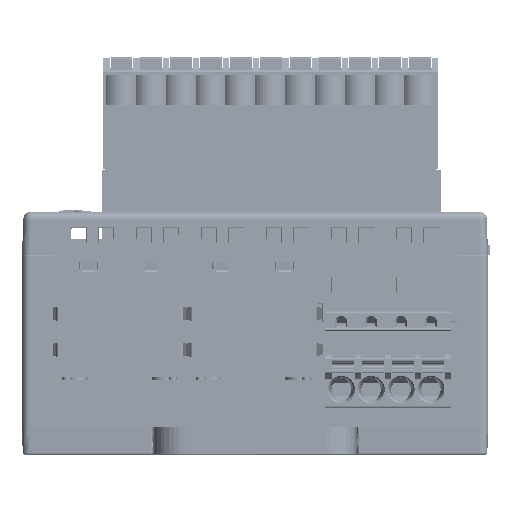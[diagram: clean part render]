
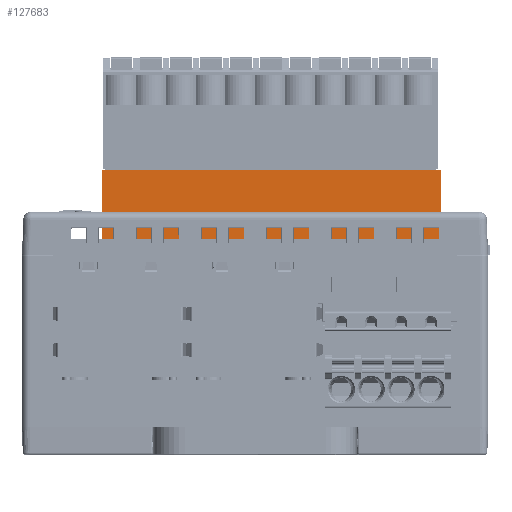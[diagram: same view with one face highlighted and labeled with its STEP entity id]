
A CAD part, front view. The second image highlights one B-rep face of the part: STEP entity #127683.
In plain terms, the highlighted planar face has unit normal (0, -1, 0).
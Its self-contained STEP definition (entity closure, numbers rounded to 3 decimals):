
#25030=DIRECTION('',(1.,0.,0.));
#25031=VECTOR('',#25030,43.3);
#25032=CARTESIAN_POINT('',(-19.55,-19.15,27.5));
#25033=LINE('',#25032,#25031);
#25458=DIRECTION('',(0.,0.,-1.));
#25459=VECTOR('',#25458,8.8);
#25460=CARTESIAN_POINT('',(23.75,-19.15,36.3));
#25461=LINE('',#25460,#25459);
#25466=DIRECTION('',(0.,0.,-1.));
#25467=VECTOR('',#25466,8.8);
#25468=CARTESIAN_POINT('',(-19.55,-19.15,36.3));
#25469=LINE('',#25468,#25467);
#25470=DIRECTION('',(-1.,0.,0.));
#25471=VECTOR('',#25470,43.3);
#25472=CARTESIAN_POINT('',(23.75,-19.15,36.3));
#25473=LINE('',#25472,#25471);
#71445=CARTESIAN_POINT('',(-19.55,-19.15,36.3));
#71447=VERTEX_POINT('',#71445);
#71451=CARTESIAN_POINT('',(23.75,-19.15,36.3));
#71452=VERTEX_POINT('',#71451);
#79934=CARTESIAN_POINT('',(-19.55,-19.15,27.5));
#79936=VERTEX_POINT('',#79934);
#79937=CARTESIAN_POINT('',(23.75,-19.15,27.5));
#79938=VERTEX_POINT('',#79937);
#127671=CARTESIAN_POINT('',(2.1,-19.15,31.7));
#127672=DIRECTION('',(0.,1.,0.));
#127673=DIRECTION('',(1.,0.,0.));
#127674=AXIS2_PLACEMENT_3D('',#127671,#127672,#127673);
#127675=PLANE('',#127674);
#127676=ORIENTED_EDGE('',*,*,#127591,.F.);
#127677=ORIENTED_EDGE('',*,*,#127617,.F.);
#127679=ORIENTED_EDGE('',*,*,#127678,.F.);
#127680=ORIENTED_EDGE('',*,*,#127656,.T.);
#127681=EDGE_LOOP('',(#127676,#127677,#127679,#127680));
#127682=FACE_OUTER_BOUND('',#127681,.F.);
#127683=ADVANCED_FACE('',(#127682),#127675,.F.);
#127591=EDGE_CURVE('',#79936,#79938,#25033,.T.);
#127617=EDGE_CURVE('',#71447,#79936,#25469,.T.);
#127656=EDGE_CURVE('',#71452,#79938,#25461,.T.);
#127678=EDGE_CURVE('',#71452,#71447,#25473,.T.);
